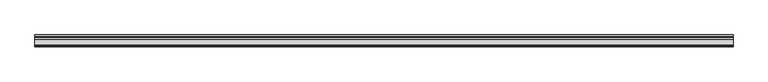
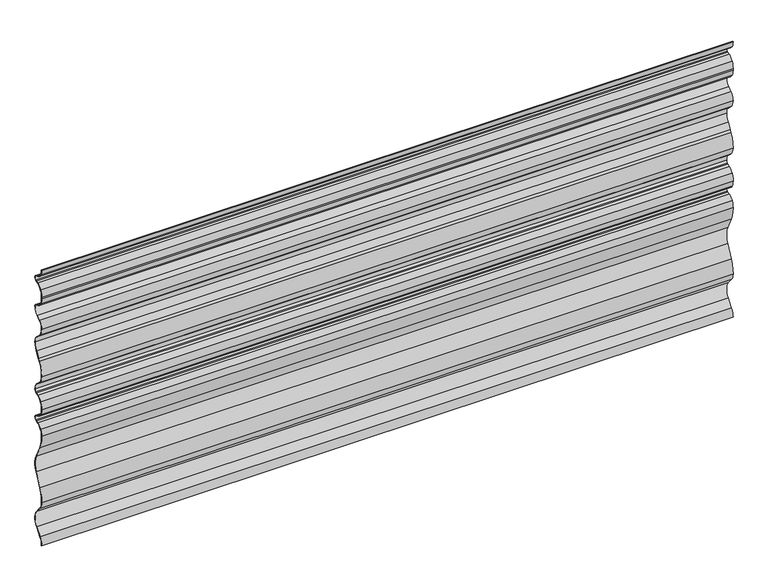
"""IFC4 building model written with IfcOpenShell, lengths in millimetres: plate geometry, Ritmica Horizontal 928 : Ritmica Horizontal 928."""

from ifc_helpers import new_model, si_unit, frame, origin, place, context, project, spatial, polyline, circle_curve, source, transform, mapped, element, save
from ifc_brep_helpers import plane_surface, cylinder_surface, revolved_surface, advanced_brep


def plate_bf433b23(model_context):
    return source(origin(), model_context, "Body", "AdvancedBrep", [
        advanced_brep(
        [(-1100.1688045, 6.5092615, 908.0620129), (-1100.1688045, 21.2621067, 895.6153968), (-1100.1688045, 28.45755, 892.7364297), (-1100.1688045, 31.9226364, 891.0770661), (-1100.1688045, 31.9284533, 875.0954695), (-1100.1688045, 28.4645758, 873.4335839), (-1100.1688045, 21.2712303, 870.5493796), (-1100.1688045, 6.5274495, 858.0920274), (-1100.1688045, 0.7421798, 836.9983174), (-1100.1688045, 0.7421798, 831.6596456), (-1100.1688045, 6.5447465, 810.5701527), (-1100.1688045, 21.2975918, 798.1235366), (-1100.1688045, 28.493035, 795.2445695), (-1100.1688045, 31.9581214, 793.5852059), (-1100.1688045, 36.9921573, 785.5962388), (-1100.1688045, 24.9656186, 760.6206134), (-1100.1688045, 12.9828956, 751.0704574), (-1100.1688045, 1.0048783, 728.5919745), (-1100.1688045, 13.0090533, 701.127971), (-1100.1688045, 24.9992939, 690.0241978), (-1100.1688045, 37.0440106, 665.0573339), (-1100.1688045, 28.6299997, 638.3240963), (-1100.1688045, 17.4991449, 620.9910926), (-1100.1688045, 13.1043036, 613.5575548), (-1100.1688045, 0.921776, 569.3793833), (-1100.1688045, 12.9259511, 541.9153798), (-1100.1688045, 24.9161915, 530.8116067), (-1100.1688045, 36.9609087, 505.8415328), (-1100.1688045, 31.9326896, 497.8521133), (-1100.1688045, 28.4688119, 496.1902275), (-1100.1688045, 21.2754341, 493.3060102), (-1100.1688045, 6.5316868, 480.8486726), (-1100.1688045, 0.8337564, 457.0856569), (-1100.1688045, 6.3430179, 437.5469103), (-1100.1688045, 21.0958632, 425.1002943), (-1100.1688045, 28.2913064, 422.2213272), (-1100.1688045, 31.7563928, 420.5619636), (-1100.1688045, 31.7622098, 404.580367), (-1100.1688045, 28.2983323, 402.9184814), (-1100.1688045, 21.1049867, 400.034277), (-1100.1688045, 6.361206, 387.5769248), (-1100.1688045, 0.8661693, 368.0341733), (-1100.1688045, 10.0476711, 324.2892209), (-1100.1688045, 30.4443377, 283.7581494), (-1100.1688045, 30.4639577, 229.8542794), (-1100.1688045, 10.0968014, 189.3083707), (-1100.1688045, 0.9471466, 145.5567461), (-1100.1688045, 9.5590077, 121.7925982), (-1100.1688045, 28.254799, 99.3683726), (-1100.1688045, 28.274038, 46.5109184), (-1100.1688045, 9.5945757, 23.7707747), (-1100.1688045, 1.0000163, 0.0), (-1100.1688045, 1.63e-05, 0.0), (-1100.1688045, 8.826039, 24.4105804), (-1100.1688045, 27.4885473, 47.1303588), (-1100.1688045, 27.4697594, 98.7483605), (-1100.1688045, 8.790937, 121.1522332), (-1100.1688045, -0.0528427, 145.5386154), (-1100.1688045, 9.1993025, 189.7494732), (-1100.1688045, 29.5703625, 230.3031531), (-1100.1688045, 29.5510695, 283.3086253), (-1100.1688045, 9.1504935, 323.8474651), (-1100.1688045, -0.133833, 368.0515751), (-1100.1688045, 5.5079347, 388.0983921), (-1100.1688045, 20.7330524, 400.9625361), (-1100.1688045, 27.895533, 403.834365), (-1100.1688045, 31.3296428, 405.4819688), (-1100.1688045, 31.3244823, 419.6600471), (-1100.1688045, 27.889174, 421.3051505), (-1100.1688045, 20.7246046, 424.1717647), (-1100.1688045, 5.4901265, 437.024822), (-1100.1688045, -0.1662181, 457.0529178), (-1100.1688045, 5.6750593, 481.3646468), (-1100.1688045, 20.9034647, 494.2342551), (-1100.1688045, 28.0660127, 497.1061111), (-1100.1688045, 31.5001226, 498.7537151), (-1100.1688045, 35.9609087, 505.841531), (-1100.1688045, 24.2645169, 530.052163), (-1100.1688045, 12.2464871, 541.1816709), (-1100.1688045, -0.0782183, 569.3680226), (-1100.1688045, 12.2502128, 614.0778463), (-1100.1688045, 16.6477304, 621.5159109), (-1100.1688045, 27.7982686, 638.8795656), (-1100.1688045, 36.04401, 665.0587755), (-1100.1688045, 24.3475224, 689.2648438), (-1100.1688045, 12.3295893, 700.3942621), (-1100.1688045, 0.0048783, 728.5916105), (-1100.1688045, 12.391292, 751.8777021), (-1100.1688045, 24.342358, 761.4026277), (-1100.1688045, 35.9921573, 785.5958749), (-1100.1688045, 31.5262109, 792.6832895), (-1100.1688045, 28.0909026, 794.3283929), (-1100.1688045, 20.9248539, 797.1955989), (-1100.1688045, 5.6893168, 810.0521734), (-1100.1688045, -0.2558769, 831.6592816), (-1100.1688045, -0.2578202, 836.9981365), (-1100.1688045, 5.6708241, 858.6080051), (-1100.1688045, 20.8992959, 871.4776387), (-1100.1688045, 28.0617766, 874.3494676), (-1100.1688045, 31.4958863, 875.9970713), (-1100.1688045, 31.4907258, 890.1751497), (-1100.1688045, 28.0554176, 891.8202531), (-1100.1688045, 20.8908482, 894.6868673), (-1100.1688045, 5.6563701, 907.5399245), (-1100.1688045, 0.0, 927.600395), (-1100.1688045, 1.0000001, 927.600395), (1100.1688045, 6.5092615, 908.0620129), (1100.1688045, 1.0000001, 927.600395), (1100.1688045, 0.0, 927.600395), (1100.1688045, 5.6563701, 907.5399245), (1100.1688045, 20.8908482, 894.6868673), (1100.1688045, 28.0554176, 891.8202531), (1100.1688045, 31.4907258, 890.1751497), (1100.1688045, 31.4958863, 875.9970713), (1100.1688045, 28.0617766, 874.3494676), (1100.1688045, 20.8992959, 871.4776387), (1100.1688045, 5.6708241, 858.6080051), (1100.1688045, -0.2578202, 836.9981365), (1100.1688045, -0.2578202, 831.6596456), (1100.1688045, 5.6893168, 810.0521734), (1100.1688045, 20.9248539, 797.1955989), (1100.1688045, 28.0909026, 794.3283929), (1100.1688045, 31.5262109, 792.6832895), (1100.1688045, 35.9921573, 785.5958749), (1100.1688045, 24.342358, 761.4026277), (1100.1688045, 12.391292, 751.8777021), (1100.1688045, 0.0048783, 728.5916105), (1100.1688045, 12.3295893, 700.3942621), (1100.1688045, 24.3475224, 689.2648438), (1100.1688045, 36.04401, 665.0587755), (1100.1688045, 27.7982686, 638.8795656), (1100.1688045, 16.6477304, 621.5159109), (1100.1688045, 12.2502128, 614.0778463), (1100.1688045, -0.0782183, 569.3680226), (1100.1688045, 12.2464871, 541.1816709), (1100.1688045, 24.2645169, 530.052163), (1100.1688045, 35.9609087, 505.841531), (1100.1688045, 31.5001226, 498.7537151), (1100.1688045, 28.0660127, 497.1061111), (1100.1688045, 20.9034647, 494.2342551), (1100.1688045, 5.6750593, 481.3646468), (1100.1688045, -0.1662181, 457.0529178), (1100.1688045, 5.4901265, 437.024822), (1100.1688045, 20.7246046, 424.1717647), (1100.1688045, 27.889174, 421.3051505), (1100.1688045, 31.3244823, 419.6600471), (1100.1688045, 31.3296428, 405.4819688), (1100.1688045, 27.895533, 403.834365), (1100.1688045, 20.7330524, 400.9625361), (1100.1688045, 5.5079347, 388.0983921), (1100.1688045, -0.133833, 368.0515751), (1100.1688045, 9.1504935, 323.8474651), (1100.1688045, 29.5510695, 283.3086253), (1100.1688045, 29.5703625, 230.3031531), (1100.1688045, 9.1993025, 189.7494732), (1100.1688045, -0.0528427, 145.5386154), (1100.1688045, 8.790937, 121.1522332), (1100.1688045, 27.4697594, 98.7483605), (1100.1688045, 27.4885473, 47.1303588), (1100.1688045, 8.826039, 24.4105804), (1100.1688045, 1.63e-05, 0.0), (1100.1688045, 1.0000163, 0.0), (1100.1688045, 9.5945757, 23.7707747), (1100.1688045, 28.274038, 46.5109184), (1100.1688045, 28.254799, 99.3683726), (1100.1688045, 9.5590077, 121.7925982), (1100.1688045, 0.9471466, 145.5567461), (1100.1688045, 10.0968014, 189.3083707), (1100.1688045, 30.4639577, 229.8542794), (1100.1688045, 30.4443377, 283.7581494), (1100.1688045, 10.0476711, 324.2892209), (1100.1688045, 0.8661693, 368.0341733), (1100.1688045, 6.361206, 387.5769248), (1100.1688045, 21.1049867, 400.034277), (1100.1688045, 28.2983323, 402.9184814), (1100.1688045, 31.7622098, 404.580367), (1100.1688045, 31.7563928, 420.5619636), (1100.1688045, 28.2913064, 422.2213272), (1100.1688045, 21.0958632, 425.1002943), (1100.1688045, 6.3430179, 437.5469103), (1100.1688045, 0.8337564, 457.0856569), (1100.1688045, 6.5316868, 480.8486726), (1100.1688045, 21.2754341, 493.3060102), (1100.1688045, 28.4688119, 496.1902275), (1100.1688045, 31.9326896, 497.8521133), (1100.1688045, 36.9609087, 505.8415328), (1100.1688045, 24.9161915, 530.8116067), (1100.1688045, 12.9259511, 541.9153798), (1100.1688045, 0.921776, 569.3793833), (1100.1688045, 13.1043036, 613.5575548), (1100.1688045, 17.4991449, 620.9910926), (1100.1688045, 28.6299997, 638.3240963), (1100.1688045, 37.0440106, 665.0573339), (1100.1688045, 24.9992939, 690.0241978), (1100.1688045, 13.0090533, 701.127971), (1100.1688045, 1.0048783, 728.5919745), (1100.1688045, 12.9828956, 751.0704574), (1100.1688045, 24.9656186, 760.6206134), (1100.1688045, 36.9921573, 785.5962388), (1100.1688045, 31.9581214, 793.5852059), (1100.1688045, 28.493035, 795.2445695), (1100.1688045, 21.2975918, 798.1235366), (1100.1688045, 6.5447465, 810.5701527), (1100.1688045, 0.744123, 831.6596456), (1100.1688045, 0.7421798, 836.9983174), (1100.1688045, 6.5274495, 858.0920274), (1100.1688045, 21.2712303, 870.5493796), (1100.1688045, 28.4645758, 873.4335839), (1100.1688045, 31.9284533, 875.0954695), (1100.1688045, 31.9226364, 891.0770661), (1100.1688045, 28.45755, 892.7364297), (1100.1688045, 21.2621067, 895.6153968)],
        [
            (0, 1, circle_curve(frame((-1100.1688045, 32.6219637, 924.0466233), z_axis=(1.0, 0.0, 0.0), x_axis=(0.0, 0.0, 1.0)), 30.6166783)),
            (1, 2),
            (2, 3),
            (3, 4, circle_curve(frame((-1100.1688045, 28.0953282, 883.0848737), z_axis=(-1.0, 0.0, 0.0), x_axis=(0.0, 0.0, 1.0)), 8.8613445)),
            (4, 5),
            (5, 6),
            (6, 7, circle_curve(frame((-1100.1688045, 32.651781, 842.1264302), z_axis=(1.0, 0.0, 0.0), x_axis=(0.0, 0.0, 1.0)), 30.6166783)),
            (7, 8, circle_curve(frame((-1100.1688045, 42.034972, 837.0133472), z_axis=(1.0, 0.0, 0.0), x_axis=(0.0, 0.0, 1.0)), 41.2927949)),
            (8, 9),
            (9, 10, circle_curve(frame((-1100.1688045, 42.0369151, 831.6746753), z_axis=(1.0, 0.0, 0.0), x_axis=(0.0, 0.0, 1.0)), 41.2927949)),
            (10, 11, circle_curve(frame((-1100.1688045, 32.8606059, 826.7955631), z_axis=(1.0, 0.0, 0.0), x_axis=(0.0, 0.0, 1.0)), 30.9158276)),
            (11, 12),
            (12, 13),
            (13, 14, circle_curve(frame((-1100.1688045, 28.1308133, 785.5930135), z_axis=(-1.0, 0.0, 0.0), x_axis=(0.0, 0.0, 1.0)), 8.8613445)),
            (14, 15, circle_curve(frame((-1100.1688045, 5.0694602, 785.5846196), z_axis=(-1.0, 0.0, 0.0), x_axis=(0.0, 0.0, 1.0)), 31.9226992)),
            (15, 16),
            (16, 17, circle_curve(frame((-1100.1688045, 28.0674647, 728.6018247), z_axis=(1.0, 0.0, 0.0), x_axis=(0.0, 0.0, 1.0)), 27.0625882)),
            (17, 18, circle_curve(frame((-1100.1688045, 38.4552002, 728.6056057), z_axis=(1.0, 0.0, 0.0), x_axis=(0.0, 0.0, 1.0)), 37.4503244)),
            (18, 19),
            (19, 20, circle_curve(frame((-1100.1688045, 5.1213136, 665.0457146), z_axis=(-1.0, 0.0, 0.0), x_axis=(0.0, 0.0, 1.0)), 31.9226992)),
            (20, 21, circle_curve(frame((-1100.1688045, -10.1198118, 665.2109304), z_axis=(-1.0, 0.0, 0.0), x_axis=(0.0, 0.0, 1.0)), 47.1640725)),
            (21, 22),
            (22, 23),
            (23, 24, circle_curve(frame((-1100.1688045, 80.6713796, 571.1565204), z_axis=(1.0, 0.0, 0.0), x_axis=(0.0, 0.0, 1.0)), 79.769402)),
            (24, 25, circle_curve(frame((-1100.1688045, 38.372098, 569.3930144), z_axis=(1.0, 0.0, 0.0), x_axis=(0.0, 0.0, 1.0)), 37.4503244)),
            (25, 26),
            (26, 27, circle_curve(frame((-1100.1688045, 5.0555271, 505.8414768), z_axis=(-1.0, 0.0, 0.0), x_axis=(0.0, 0.0, 1.0)), 31.9053816)),
            (27, 28, circle_curve(frame((-1100.1688045, 28.0995643, 505.8415173), z_axis=(-1.0, 0.0, 0.0), x_axis=(0.0, 0.0, 1.0)), 8.8613444)),
            (28, 29),
            (29, 30),
            (30, 31, circle_curve(frame((-1100.1688045, 32.6560172, 464.8830737), z_axis=(1.0, 0.0, 0.0), x_axis=(0.0, 0.0, 1.0)), 30.6166783)),
            (31, 32, circle_curve(frame((-1100.1688045, 42.0392082, 459.7699907), z_axis=(1.0, 0.0, 0.0), x_axis=(0.0, 0.0, 1.0)), 41.2927948)),
            (32, 33, circle_curve(frame((-1100.1688045, 38.2840783, 457.0992876), z_axis=(1.0, 0.0, 0.0), x_axis=(0.0, 0.0, 1.0)), 37.4503244)),
            (33, 34, circle_curve(frame((-1100.1688045, 32.4557202, 453.5315208), z_axis=(1.0, 0.0, 0.0), x_axis=(0.0, 0.0, 1.0)), 30.6166783)),
            (34, 35),
            (35, 36),
            (36, 37, circle_curve(frame((-1100.1688045, 27.9290847, 412.5697711), z_axis=(-1.0, 0.0, 0.0), x_axis=(0.0, 0.0, 1.0)), 8.8613445)),
            (37, 38),
            (38, 39),
            (39, 40, circle_curve(frame((-1100.1688045, 32.4855375, 371.6113276), z_axis=(1.0, 0.0, 0.0), x_axis=(0.0, 0.0, 1.0)), 30.6166783)),
            (40, 41, circle_curve(frame((-1100.1688045, 38.3164913, 368.0478045), z_axis=(1.0, 0.0, 0.0), x_axis=(0.0, 0.0, 1.0)), 37.4503244)),
            (41, 42, circle_curve(frame((-1100.1688045, 94.1023268, 364.7672254), z_axis=(1.0, 0.0, 0.0), x_axis=(0.0, 0.0, 1.0)), 93.293376)),
            (42, 43),
            (43, 44, circle_curve(frame((-1100.1688045, -23.1517542, 256.7867029), z_axis=(-1.0, 0.0, 0.0), x_axis=(0.0, 0.0, 1.0)), 60.0)),
            (44, 45),
            (45, 46, circle_curve(frame((-1100.1688045, 94.1809012, 148.8915653), z_axis=(1.0, 0.0, 0.0), x_axis=(0.0, 0.0, 1.0)), 93.293376)),
            (46, 47, circle_curve(frame((-1100.1688045, 38.0785645, 145.5702612), z_axis=(1.0, 0.0, 0.0), x_axis=(0.0, 0.0, 1.0)), 37.1314203)),
            (47, 48),
            (48, 49, circle_curve(frame((-1100.1688045, -7.0897542, 72.9267773), z_axis=(-1.0, 0.0, 0.0), x_axis=(0.0, 0.0, 1.0)), 44.1406321)),
            (49, 50),
            (50, 51, circle_curve(frame((-1100.1688045, 38.131434, 0.0138791), z_axis=(1.0, 0.0, 0.0), x_axis=(0.0, 0.0, 1.0)), 37.1314203)),
            (51, 52),
            (52, 53, circle_curve(frame((-1100.1688045, 38.131434, 0.0138791), z_axis=(-1.0, 0.0, 0.0), x_axis=(0.0, 0.0, 1.0)), 38.1314203)),
            (53, 54),
            (54, 55, circle_curve(frame((-1100.1688045, -7.0897542, 72.9267773), z_axis=(1.0, 0.0, 0.0), x_axis=(0.0, 0.0, 1.0)), 43.1406321)),
            (55, 56),
            (56, 57, circle_curve(frame((-1100.1688045, 38.0785645, 145.5702612), z_axis=(-1.0, 0.0, 0.0), x_axis=(0.0, 0.0, 1.0)), 38.1314203)),
            (57, 58, circle_curve(frame((-1100.1688045, 94.1809012, 148.8915653), z_axis=(-1.0, 0.0, 0.0), x_axis=(0.0, 0.0, 1.0)), 94.293376)),
            (58, 59),
            (59, 60, circle_curve(frame((-1100.1688045, -23.1517542, 256.7867029), z_axis=(1.0, 0.0, 0.0), x_axis=(0.0, 0.0, 1.0)), 59.0)),
            (60, 61),
            (61, 62, circle_curve(frame((-1100.1688045, 94.1023268, 364.7672254), z_axis=(-1.0, 0.0, 0.0), x_axis=(0.0, 0.0, 1.0)), 94.293376)),
            (62, 63, circle_curve(frame((-1100.1688045, 38.3164913, 368.0478045), z_axis=(-1.0, 0.0, 0.0), x_axis=(0.0, 0.0, 1.0)), 38.4503244)),
            (63, 64, circle_curve(frame((-1100.1688045, 32.4855375, 371.6113276), z_axis=(-1.0, 0.0, 0.0), x_axis=(0.0, 0.0, 1.0)), 31.6166783)),
            (64, 65),
            (65, 66),
            (66, 67, circle_curve(frame((-1100.1688045, 27.9290847, 412.5697711), z_axis=(1.0, 0.0, 0.0), x_axis=(0.0, 0.0, 1.0)), 7.8613445)),
            (67, 68),
            (68, 69),
            (69, 70, circle_curve(frame((-1100.1688045, 32.4557202, 453.5315208), z_axis=(-1.0, 0.0, 0.0), x_axis=(0.0, 0.0, 1.0)), 31.6166783)),
            (70, 71, circle_curve(frame((-1100.1688045, 38.2840783, 457.0992876), z_axis=(-1.0, 0.0, 0.0), x_axis=(0.0, 0.0, 1.0)), 38.4503244)),
            (71, 72, circle_curve(frame((-1100.1688045, 42.0392082, 459.7699907), z_axis=(-1.0, 0.0, 0.0), x_axis=(0.0, 0.0, 1.0)), 42.2927948)),
            (72, 73, circle_curve(frame((-1100.1688045, 32.6560172, 464.8830737), z_axis=(-1.0, 0.0, 0.0), x_axis=(0.0, 0.0, 1.0)), 31.6166782)),
            (73, 74),
            (74, 75),
            (75, 76, circle_curve(frame((-1100.1688045, 28.0995643, 505.8415173), z_axis=(1.0, 0.0, 0.0), x_axis=(0.0, 0.0, 1.0)), 7.8613444)),
            (76, 77, circle_curve(frame((-1100.1688045, 5.0555271, 505.8414768), z_axis=(1.0, 0.0, 0.0), x_axis=(0.0, 0.0, 1.0)), 30.9053816)),
            (77, 78),
            (78, 79, circle_curve(frame((-1100.1688045, 38.372098, 569.3930144), z_axis=(-1.0, 0.0, 0.0), x_axis=(0.0, 0.0, 1.0)), 38.4503244)),
            (79, 80, circle_curve(frame((-1100.1688045, 80.6713796, 571.1565204), z_axis=(-1.0, 0.0, 0.0), x_axis=(0.0, 0.0, 1.0)), 80.769402)),
            (80, 81),
            (81, 82),
            (82, 83, circle_curve(frame((-1100.1688045, -10.1198118, 665.2109304), z_axis=(1.0, 0.0, 0.0), x_axis=(0.0, 0.0, 1.0)), 46.1640725)),
            (83, 84, circle_curve(frame((-1100.1688045, 5.1213136, 665.0457146), z_axis=(1.0, 0.0, 0.0), x_axis=(0.0, 0.0, 1.0)), 30.9226992)),
            (84, 85),
            (85, 86, circle_curve(frame((-1100.1688045, 38.4552002, 728.6056057), z_axis=(-1.0, 0.0, 0.0), x_axis=(0.0, 0.0, 1.0)), 38.4503244)),
            (86, 87, circle_curve(frame((-1100.1688045, 28.0674647, 728.6018247), z_axis=(-1.0, 0.0, 0.0), x_axis=(0.0, 0.0, 1.0)), 28.0625882)),
            (87, 88),
            (88, 89, circle_curve(frame((-1100.1688045, 5.0694602, 785.5846196), z_axis=(1.0, 0.0, 0.0), x_axis=(0.0, 0.0, 1.0)), 30.9226992)),
            (89, 90, circle_curve(frame((-1100.1688045, 28.1308133, 785.5930135), z_axis=(1.0, 0.0, 0.0), x_axis=(0.0, 0.0, 1.0)), 7.8613445)),
            (90, 91),
            (91, 92),
            (92, 93, circle_curve(frame((-1100.1688045, 32.8606059, 826.7955631), z_axis=(-1.0, 0.0, 0.0), x_axis=(0.0, 0.0, 1.0)), 31.9158276)),
            (93, 94, circle_curve(frame((-1100.1688045, 42.0369151, 831.6746753), z_axis=(-1.0, 0.0, 0.0), x_axis=(0.0, 0.0, 1.0)), 42.2927949)),
            (94, 95),
            (95, 96, circle_curve(frame((-1100.1688045, 42.034972, 837.0133472), z_axis=(-1.0, 0.0, 0.0), x_axis=(0.0, 0.0, 1.0)), 42.2927949)),
            (96, 97, circle_curve(frame((-1100.1688045, 32.651781, 842.1264302), z_axis=(-1.0, 0.0, 0.0), x_axis=(0.0, 0.0, 1.0)), 31.6166783)),
            (97, 98),
            (98, 99),
            (99, 100, circle_curve(frame((-1100.1688045, 28.0953282, 883.0848737), z_axis=(1.0, 0.0, 0.0), x_axis=(0.0, 0.0, 1.0)), 7.8613445)),
            (100, 101),
            (101, 102),
            (102, 103, circle_curve(frame((-1100.1688045, 32.6219637, 924.0466233), z_axis=(-1.0, 0.0, 0.0), x_axis=(0.0, 0.0, 1.0)), 31.6166783)),
            (103, 104, circle_curve(frame((-1100.1688045, 38.4503219, 927.6143902), z_axis=(-1.0, 0.0, 0.0), x_axis=(0.0, 0.0, 1.0)), 38.4503244)),
            (104, 105),
            (105, 0, circle_curve(frame((-1100.1688045, 38.4503219, 927.6143902), z_axis=(1.0, 0.0, 0.0), x_axis=(0.0, 0.0, 1.0)), 37.4503244)),
            (106, 107, circle_curve(frame((1100.1688045, 38.4503219, 927.6143902), z_axis=(-1.0, 0.0, 0.0), x_axis=(0.0, 0.0, 1.0)), 37.4503244)),
            (107, 108),
            (108, 109, circle_curve(frame((1100.1688045, 38.4503219, 927.6143902), z_axis=(1.0, 0.0, 0.0), x_axis=(0.0, 0.0, 1.0)), 38.4503244)),
            (109, 110, circle_curve(frame((1100.1688045, 32.6219637, 924.0466233), z_axis=(1.0, 0.0, 0.0), x_axis=(0.0, 0.0, 1.0)), 31.6166783)),
            (110, 111),
            (111, 112),
            (112, 113, circle_curve(frame((1100.1688045, 28.0953282, 883.0848737), z_axis=(-1.0, 0.0, 0.0), x_axis=(0.0, 0.0, 1.0)), 7.8613445)),
            (113, 114),
            (114, 115),
            (115, 116, circle_curve(frame((1100.1688045, 32.651781, 842.1264302), z_axis=(1.0, 0.0, 0.0), x_axis=(0.0, 0.0, 1.0)), 31.6166783)),
            (116, 117, circle_curve(frame((1100.1688045, 42.034972, 837.0133472), z_axis=(1.0, 0.0, 0.0), x_axis=(0.0, 0.0, 1.0)), 42.2927949)),
            (117, 118),
            (118, 119, circle_curve(frame((1100.1688045, 42.0369151, 831.6746753), z_axis=(1.0, 0.0, 0.0), x_axis=(0.0, 0.0, 1.0)), 42.2927949)),
            (119, 120, circle_curve(frame((1100.1688045, 32.8606059, 826.7955631), z_axis=(1.0, 0.0, 0.0), x_axis=(0.0, 0.0, 1.0)), 31.9158276)),
            (120, 121),
            (121, 122),
            (122, 123, circle_curve(frame((1100.1688045, 28.1308133, 785.5930135), z_axis=(-1.0, 0.0, 0.0), x_axis=(0.0, 0.0, 1.0)), 7.8613445)),
            (123, 124, circle_curve(frame((1100.1688045, 5.0694602, 785.5846196), z_axis=(-1.0, 0.0, 0.0), x_axis=(0.0, 0.0, 1.0)), 30.9226992)),
            (124, 125),
            (125, 126, circle_curve(frame((1100.1688045, 28.0674647, 728.6018247), z_axis=(1.0, 0.0, 0.0), x_axis=(0.0, 0.0, 1.0)), 28.0625882)),
            (126, 127, circle_curve(frame((1100.1688045, 38.4552002, 728.6056057), z_axis=(1.0, 0.0, 0.0), x_axis=(0.0, 0.0, 1.0)), 38.4503244)),
            (127, 128),
            (128, 129, circle_curve(frame((1100.1688045, 5.1213136, 665.0457146), z_axis=(-1.0, 0.0, 0.0), x_axis=(0.0, 0.0, 1.0)), 30.9226992)),
            (129, 130, circle_curve(frame((1100.1688045, -10.1198118, 665.2109304), z_axis=(-1.0, 0.0, 0.0), x_axis=(0.0, 0.0, 1.0)), 46.1640725)),
            (130, 131),
            (131, 132),
            (132, 133, circle_curve(frame((1100.1688045, 80.6713796, 571.1565204), z_axis=(1.0, 0.0, 0.0), x_axis=(0.0, 0.0, 1.0)), 80.769402)),
            (133, 134, circle_curve(frame((1100.1688045, 38.372098, 569.3930144), z_axis=(1.0, 0.0, 0.0), x_axis=(0.0, 0.0, 1.0)), 38.4503244)),
            (134, 135),
            (135, 136, circle_curve(frame((1100.1688045, 5.0555271, 505.8414768), z_axis=(-1.0, 0.0, 0.0), x_axis=(0.0, 0.0, 1.0)), 30.9053816)),
            (136, 137, circle_curve(frame((1100.1688045, 28.0995643, 505.8415173), z_axis=(-1.0, 0.0, 0.0), x_axis=(0.0, 0.0, 1.0)), 7.8613444)),
            (137, 138),
            (138, 139),
            (139, 140, circle_curve(frame((1100.1688045, 32.6560172, 464.8830737), z_axis=(1.0, 0.0, 0.0), x_axis=(0.0, 0.0, 1.0)), 31.6166782)),
            (140, 141, circle_curve(frame((1100.1688045, 42.0392082, 459.7699907), z_axis=(1.0, 0.0, 0.0), x_axis=(0.0, 0.0, 1.0)), 42.2927948)),
            (141, 142, circle_curve(frame((1100.1688045, 38.2840783, 457.0992876), z_axis=(1.0, 0.0, 0.0), x_axis=(0.0, 0.0, 1.0)), 38.4503244)),
            (142, 143, circle_curve(frame((1100.1688045, 32.4557202, 453.5315208), z_axis=(1.0, 0.0, 0.0), x_axis=(0.0, 0.0, 1.0)), 31.6166783)),
            (143, 144),
            (144, 145),
            (145, 146, circle_curve(frame((1100.1688045, 27.9290847, 412.5697711), z_axis=(-1.0, 0.0, 0.0), x_axis=(0.0, 0.0, 1.0)), 7.8613445)),
            (146, 147),
            (147, 148),
            (148, 149, circle_curve(frame((1100.1688045, 32.4855375, 371.6113276), z_axis=(1.0, 0.0, 0.0), x_axis=(0.0, 0.0, 1.0)), 31.6166783)),
            (149, 150, circle_curve(frame((1100.1688045, 38.3164913, 368.0478045), z_axis=(1.0, 0.0, 0.0), x_axis=(0.0, 0.0, 1.0)), 38.4503244)),
            (150, 151, circle_curve(frame((1100.1688045, 94.1023268, 364.7672254), z_axis=(1.0, 0.0, 0.0), x_axis=(0.0, 0.0, 1.0)), 94.293376)),
            (151, 152),
            (152, 153, circle_curve(frame((1100.1688045, -23.1517542, 256.7867029), z_axis=(-1.0, 0.0, 0.0), x_axis=(0.0, 0.0, 1.0)), 59.0)),
            (153, 154),
            (154, 155, circle_curve(frame((1100.1688045, 94.1809012, 148.8915653), z_axis=(1.0, 0.0, 0.0), x_axis=(0.0, 0.0, 1.0)), 94.293376)),
            (155, 156, circle_curve(frame((1100.1688045, 38.0785645, 145.5702612), z_axis=(1.0, 0.0, 0.0), x_axis=(0.0, 0.0, 1.0)), 38.1314203)),
            (156, 157),
            (157, 158, circle_curve(frame((1100.1688045, -7.0897542, 72.9267773), z_axis=(-1.0, 0.0, 0.0), x_axis=(0.0, 0.0, 1.0)), 43.1406321)),
            (158, 159),
            (159, 160, circle_curve(frame((1100.1688045, 38.131434, 0.0138791), z_axis=(1.0, 0.0, 0.0), x_axis=(0.0, 0.0, 1.0)), 38.1314203)),
            (160, 161),
            (161, 162, circle_curve(frame((1100.1688045, 38.131434, 0.0138791), z_axis=(-1.0, 0.0, 0.0), x_axis=(0.0, 0.0, 1.0)), 37.1314203)),
            (162, 163),
            (163, 164, circle_curve(frame((1100.1688045, -7.0897542, 72.9267773), z_axis=(1.0, 0.0, 0.0), x_axis=(0.0, 0.0, 1.0)), 44.1406321)),
            (164, 165),
            (165, 166, circle_curve(frame((1100.1688045, 38.0785645, 145.5702612), z_axis=(-1.0, 0.0, 0.0), x_axis=(0.0, 0.0, 1.0)), 37.1314203)),
            (166, 167, circle_curve(frame((1100.1688045, 94.1809012, 148.8915653), z_axis=(-1.0, 0.0, 0.0), x_axis=(0.0, 0.0, 1.0)), 93.293376)),
            (167, 168),
            (168, 169, circle_curve(frame((1100.1688045, -23.1517542, 256.7867029), z_axis=(1.0, 0.0, 0.0), x_axis=(0.0, 0.0, 1.0)), 60.0)),
            (169, 170),
            (170, 171, circle_curve(frame((1100.1688045, 94.1023268, 364.7672254), z_axis=(-1.0, 0.0, 0.0), x_axis=(0.0, 0.0, 1.0)), 93.293376)),
            (171, 172, circle_curve(frame((1100.1688045, 38.3164913, 368.0478045), z_axis=(-1.0, 0.0, 0.0), x_axis=(0.0, 0.0, 1.0)), 37.4503244)),
            (172, 173, circle_curve(frame((1100.1688045, 32.4855375, 371.6113276), z_axis=(-1.0, 0.0, 0.0), x_axis=(0.0, 0.0, 1.0)), 30.6166783)),
            (173, 174),
            (174, 175),
            (175, 176, circle_curve(frame((1100.1688045, 27.9290847, 412.5697711), z_axis=(1.0, 0.0, 0.0), x_axis=(0.0, 0.0, 1.0)), 8.8613445)),
            (176, 177),
            (177, 178),
            (178, 179, circle_curve(frame((1100.1688045, 32.4557202, 453.5315208), z_axis=(-1.0, 0.0, 0.0), x_axis=(0.0, 0.0, 1.0)), 30.6166783)),
            (179, 180, circle_curve(frame((1100.1688045, 38.2840783, 457.0992876), z_axis=(-1.0, 0.0, 0.0), x_axis=(0.0, 0.0, 1.0)), 37.4503244)),
            (180, 181, circle_curve(frame((1100.1688045, 42.0392082, 459.7699907), z_axis=(-1.0, 0.0, 0.0), x_axis=(0.0, 0.0, 1.0)), 41.2927948)),
            (181, 182, circle_curve(frame((1100.1688045, 32.6560172, 464.8830737), z_axis=(-1.0, 0.0, 0.0), x_axis=(0.0, 0.0, 1.0)), 30.6166783)),
            (182, 183),
            (183, 184),
            (184, 185, circle_curve(frame((1100.1688045, 28.0995643, 505.8415173), z_axis=(1.0, 0.0, 0.0), x_axis=(0.0, 0.0, 1.0)), 8.8613444)),
            (185, 186, circle_curve(frame((1100.1688045, 5.0555271, 505.8414768), z_axis=(1.0, 0.0, 0.0), x_axis=(0.0, 0.0, 1.0)), 31.9053816)),
            (186, 187),
            (187, 188, circle_curve(frame((1100.1688045, 38.372098, 569.3930144), z_axis=(-1.0, 0.0, 0.0), x_axis=(0.0, 0.0, 1.0)), 37.4503244)),
            (188, 189, circle_curve(frame((1100.1688045, 80.6713796, 571.1565204), z_axis=(-1.0, 0.0, 0.0), x_axis=(0.0, 0.0, 1.0)), 79.769402)),
            (189, 190),
            (190, 191),
            (191, 192, circle_curve(frame((1100.1688045, -10.1198118, 665.2109304), z_axis=(1.0, 0.0, 0.0), x_axis=(0.0, 0.0, 1.0)), 47.1640725)),
            (192, 193, circle_curve(frame((1100.1688045, 5.1213136, 665.0457146), z_axis=(1.0, 0.0, 0.0), x_axis=(0.0, 0.0, 1.0)), 31.9226992)),
            (193, 194),
            (194, 195, circle_curve(frame((1100.1688045, 38.4552002, 728.6056057), z_axis=(-1.0, 0.0, 0.0), x_axis=(0.0, 0.0, 1.0)), 37.4503244)),
            (195, 196, circle_curve(frame((1100.1688045, 28.0674647, 728.6018247), z_axis=(-1.0, 0.0, 0.0), x_axis=(0.0, 0.0, 1.0)), 27.0625882)),
            (196, 197),
            (197, 198, circle_curve(frame((1100.1688045, 5.0694602, 785.5846196), z_axis=(1.0, 0.0, 0.0), x_axis=(0.0, 0.0, 1.0)), 31.9226992)),
            (198, 199, circle_curve(frame((1100.1688045, 28.1308133, 785.5930135), z_axis=(1.0, 0.0, 0.0), x_axis=(0.0, 0.0, 1.0)), 8.8613445)),
            (199, 200),
            (200, 201),
            (201, 202, circle_curve(frame((1100.1688045, 32.8606059, 826.7955631), z_axis=(-1.0, 0.0, 0.0), x_axis=(0.0, 0.0, 1.0)), 30.9158276)),
            (202, 203, circle_curve(frame((1100.1688045, 42.0369151, 831.6746753), z_axis=(-1.0, 0.0, 0.0), x_axis=(0.0, 0.0, 1.0)), 41.2927949)),
            (203, 204),
            (204, 205, circle_curve(frame((1100.1688045, 42.034972, 837.0133472), z_axis=(-1.0, 0.0, 0.0), x_axis=(0.0, 0.0, 1.0)), 41.2927949)),
            (205, 206, circle_curve(frame((1100.1688045, 32.651781, 842.1264302), z_axis=(-1.0, 0.0, 0.0), x_axis=(0.0, 0.0, 1.0)), 30.6166783)),
            (206, 207),
            (207, 208),
            (208, 209, circle_curve(frame((1100.1688045, 28.0953282, 883.0848737), z_axis=(1.0, 0.0, 0.0), x_axis=(0.0, 0.0, 1.0)), 8.8613445)),
            (209, 210),
            (210, 211),
            (211, 106, circle_curve(frame((1100.1688045, 32.6219637, 924.0466233), z_axis=(-1.0, 0.0, 0.0), x_axis=(0.0, 0.0, 1.0)), 30.6166783)),
            (0, 106),
            (211, 1),
            (210, 2),
            (209, 3),
            (208, 4),
            (207, 5),
            (206, 6),
            (205, 7),
            (204, 8),
            (203, 9),
            (202, 10),
            (201, 11),
            (200, 12),
            (199, 13),
            (198, 14),
            (197, 15),
            (196, 16),
            (195, 17),
            (194, 18),
            (193, 19),
            (192, 20),
            (191, 21),
            (190, 22),
            (189, 23),
            (188, 24),
            (187, 25),
            (186, 26),
            (185, 27),
            (184, 28),
            (183, 29),
            (182, 30),
            (181, 31),
            (180, 32),
            (179, 33),
            (178, 34),
            (177, 35),
            (176, 36),
            (175, 37),
            (174, 38),
            (173, 39),
            (172, 40),
            (171, 41),
            (170, 42),
            (169, 43),
            (168, 44),
            (167, 45),
            (166, 46),
            (165, 47),
            (164, 48),
            (163, 49),
            (162, 50),
            (161, 51),
            (160, 52),
            (159, 53),
            (158, 54),
            (157, 55),
            (156, 56),
            (155, 57),
            (154, 58),
            (153, 59),
            (152, 60),
            (151, 61),
            (150, 62),
            (149, 63),
            (148, 64),
            (147, 65),
            (146, 66),
            (145, 67),
            (144, 68),
            (143, 69),
            (142, 70),
            (141, 71),
            (140, 72),
            (139, 73),
            (138, 74),
            (137, 75),
            (136, 76),
            (135, 77),
            (134, 78),
            (133, 79),
            (132, 80),
            (131, 81),
            (130, 82),
            (129, 83),
            (128, 84),
            (127, 85),
            (126, 86),
            (125, 87),
            (124, 88),
            (123, 89),
            (122, 90),
            (121, 91),
            (120, 92),
            (119, 93),
            (118, 94),
            (117, 95),
            (116, 96),
            (115, 97),
            (114, 98),
            (113, 99),
            (112, 100),
            (111, 101),
            (110, 102),
            (109, 103),
            (108, 104),
            (107, 105),
        ],
        [
            plane_surface(frame((-1100.1688045, 32.6219637, 954.6633016), z_axis=(-1.0, 0.0, 0.0), x_axis=(0.0, -1.0, 0.0))),
            plane_surface(frame((1100.1688045, 32.6219637, 954.6633016), z_axis=(1.0, 0.0, 0.0), x_axis=(0.0, 1.0, 0.0))),
            revolved_surface(polyline([(1100.1688045, 32.6219637, 954.6633016), (-1100.1688045, 32.6219637, 954.6633016)]), (1100.1688045, 32.6219637, 924.0466233), (1.0, 0.0, 0.0)),
            plane_surface(frame((-1100.1688045, 21.2621067, 895.6153968), z_axis=(0.0, 0.3714785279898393, 0.9284415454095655), x_axis=(1.0, 0.0, 0.0))),
            plane_surface(frame((-1100.1688045, 28.45755, 892.7364297), z_axis=(0.0, 0.43191054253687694, 0.9019164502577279), x_axis=(1.0, 0.0, 0.0))),
            cylinder_surface(frame((1100.1688045, 28.0953282, 883.0848737), z_axis=(-1.0, 0.0, 0.0), x_axis=(0.0, 0.0, 1.0)), 8.8613445),
            plane_surface(frame((-1100.1688045, 31.9284533, 875.0954695), z_axis=(0.0, 0.43256698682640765, -0.9016017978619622), x_axis=(1.0, 0.0, 0.0))),
            plane_surface(frame((-1100.1688045, 28.4645758, 873.4335839), z_axis=(0.0, 0.3721542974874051, -0.928170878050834), x_axis=(1.0, 0.0, 0.0))),
            revolved_surface(polyline([(1100.1688045, 32.651781, 872.7431085), (-1100.1688045, 32.651781, 872.7431085)]), (1100.1688045, 32.651781, 842.1264302), (1.0, 0.0, 0.0)),
            revolved_surface(polyline([(1100.1688045, 42.034972, 878.3061421), (-1100.1688045, 42.034972, 878.3061421)]), (1100.1688045, 42.034972, 837.0133472), (1.0, 0.0, 0.0)),
            plane_surface(frame((-1100.1688045, 0.7421798, 836.9983174), z_axis=(0.0, 1.0, 0.0), x_axis=(1.0, 0.0, 0.0))),
            revolved_surface(polyline([(1100.1688045, 42.0369151, 872.9674702), (-1100.1688045, 42.0369151, 872.9674702)]), (1100.1688045, 42.0369151, 831.6746753), (1.0, 0.0, 0.0)),
            revolved_surface(polyline([(1100.1688045, 32.8606059, 857.7113907), (-1100.1688045, 32.8606059, 857.7113907)]), (1100.1688045, 32.8606059, 826.7955631), (1.0, 0.0, 0.0)),
            plane_surface(frame((-1100.1688045, 21.2975918, 798.1235366), z_axis=(0.0, 0.3714785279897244, 0.9284415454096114), x_axis=(1.0, 0.0, 0.0))),
            plane_surface(frame((-1100.1688045, 28.493035, 795.2445695), z_axis=(0.0, 0.4319105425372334, 0.9019164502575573), x_axis=(1.0, 0.0, 0.0))),
            cylinder_surface(frame((1100.1688045, 28.1308133, 785.5930135), z_axis=(-1.0, 0.0, 0.0), x_axis=(0.0, 0.0, 1.0)), 8.8613445),
            cylinder_surface(frame((1100.1688045, 5.0694602, 785.5846196), z_axis=(-1.0, 0.0, 0.0), x_axis=(0.0, 0.0, 1.0)), 31.9226992),
            plane_surface(frame((-1100.1688045, 24.9656186, 760.6206134), z_axis=(0.0, 0.6232605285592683, -0.7820142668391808), x_axis=(1.0, 0.0, 0.0))),
            revolved_surface(polyline([(1100.1688045, 28.0674647, 755.6644129), (-1100.1688045, 28.0674647, 755.6644129)]), (1100.1688045, 28.0674647, 728.6018247), (1.0, 0.0, 0.0)),
            revolved_surface(polyline([(1100.1688045, 38.4552002, 766.0559301), (-1100.1688045, 38.4552002, 766.0559301)]), (1100.1688045, 38.4552002, 728.6056057), (1.0, 0.0, 0.0)),
            plane_surface(frame((-1100.1688045, 13.0090533, 701.127971), z_axis=(0.0, 0.6794639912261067, 0.7337088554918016), x_axis=(1.0, 0.0, 0.0))),
            cylinder_surface(frame((1100.1688045, 5.1213136, 665.0457146), z_axis=(-1.0, 0.0, 0.0), x_axis=(0.0, 0.0, 1.0)), 31.9226992),
            cylinder_surface(frame((1100.1688045, -10.1198118, 665.2109304), z_axis=(-1.0, 0.0, 0.0), x_axis=(0.0, 0.0, 1.0)), 47.1640725),
            plane_surface(frame((-1100.1688045, 28.6299997, 638.3240963), z_axis=(0.0, 0.8414387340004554, -0.5403525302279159), x_axis=(1.0, 0.0, 0.0))),
            plane_surface(frame((-1100.1688045, 17.4991449, 620.9910926), z_axis=(0.0, 0.8608100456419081, -0.5089263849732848), x_axis=(1.0, 0.0, 0.0))),
            revolved_surface(polyline([(1100.1688045, 80.6713796, 650.9259224), (-1100.1688045, 80.6713796, 650.9259224)]), (1100.1688045, 80.6713796, 571.1565204), (1.0, 0.0, 0.0)),
            revolved_surface(polyline([(1100.1688045, 38.372098, 606.8433388), (-1100.1688045, 38.372098, 606.8433388)]), (1100.1688045, 38.372098, 569.3930144), (1.0, 0.0, 0.0)),
            plane_surface(frame((-1100.1688045, 12.9259511, 541.9153798), z_axis=(0.0, 0.6794639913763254, 0.7337088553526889), x_axis=(1.0, 0.0, 0.0))),
            cylinder_surface(frame((1100.1688045, 5.0555271, 505.8414768), z_axis=(-1.0, 0.0, 0.0), x_axis=(0.0, 0.0, 1.0)), 31.9053816),
            cylinder_surface(frame((1100.1688045, 28.0995643, 505.8415173), z_axis=(-1.0, 0.0, 0.0), x_axis=(0.0, 0.0, 1.0)), 8.8613444),
            plane_surface(frame((-1100.1688045, 31.9326896, 497.8521133), z_axis=(0.0, 0.43256701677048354, -0.9016017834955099), x_axis=(1.0, 0.0, 0.0))),
            plane_surface(frame((-1100.1688045, 28.4688119, 496.1902275), z_axis=(0.0, 0.37215430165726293, -0.9281708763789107), x_axis=(1.0, 0.0, 0.0))),
            revolved_surface(polyline([(1100.1688045, 32.6560172, 495.499752), (-1100.1688045, 32.6560172, 495.499752)]), (1100.1688045, 32.6560172, 464.8830737), (1.0, 0.0, 0.0)),
            revolved_surface(polyline([(1100.1688045, 42.0392082, 501.0627855), (-1100.1688045, 42.0392082, 501.0627855)]), (1100.1688045, 42.0392082, 459.7699907), (1.0, 0.0, 0.0)),
            revolved_surface(polyline([(1100.1688045, 38.2840783, 494.549612), (-1100.1688045, 38.2840783, 494.549612)]), (1100.1688045, 38.2840783, 457.0992876), (1.0, 0.0, 0.0)),
            revolved_surface(polyline([(1100.1688045, 32.4557202, 484.1481991), (-1100.1688045, 32.4557202, 484.1481991)]), (1100.1688045, 32.4557202, 453.5315208), (1.0, 0.0, 0.0)),
            plane_surface(frame((-1100.1688045, 21.0958632, 425.1002943), z_axis=(0.0, 0.3714785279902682, 0.9284415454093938), x_axis=(1.0, 0.0, 0.0))),
            plane_surface(frame((-1100.1688045, 28.2913064, 422.2213272), z_axis=(0.0, 0.43191054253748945, 0.9019164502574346), x_axis=(1.0, 0.0, 0.0))),
            cylinder_surface(frame((1100.1688045, 27.9290847, 412.5697711), z_axis=(-1.0, 0.0, 0.0), x_axis=(0.0, 0.0, 1.0)), 8.8613445),
            plane_surface(frame((-1100.1688045, 31.7622098, 404.580367), z_axis=(0.0, 0.432566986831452, -0.901601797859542), x_axis=(1.0, 0.0, 0.0))),
            plane_surface(frame((-1100.1688045, 28.2983323, 402.9184814), z_axis=(0.0, 0.3721542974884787, -0.9281708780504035), x_axis=(1.0, 0.0, 0.0))),
            revolved_surface(polyline([(1100.1688045, 32.4855375, 402.22800589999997), (-1100.1688045, 32.4855375, 402.22800589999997)]), (1100.1688045, 32.4855375, 371.6113276), (1.0, 0.0, 0.0)),
            revolved_surface(polyline([(1100.1688045, 38.3164913, 405.4981289), (-1100.1688045, 38.3164913, 405.4981289)]), (1100.1688045, 38.3164913, 368.0478045), (1.0, 0.0, 0.0)),
            revolved_surface(polyline([(1100.1688045, 94.1023268, 458.0606014), (-1100.1688045, 94.1023268, 458.0606014)]), (1100.1688045, 94.1023268, 364.7672254), (1.0, 0.0, 0.0)),
            plane_surface(frame((-1100.1688045, 10.0476711, 324.2892209), z_axis=(0.0, 0.8932681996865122, 0.4495241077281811), x_axis=(1.0, 0.0, 0.0))),
            cylinder_surface(frame((1100.1688045, -23.1517542, 256.7867029), z_axis=(-1.0, 0.0, 0.0), x_axis=(0.0, 0.0, 1.0)), 60.0),
            plane_surface(frame((-1100.1688045, 30.4639577, 229.8542794), z_axis=(0.0, 0.8935951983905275, -0.44887372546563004), x_axis=(1.0, 0.0, 0.0))),
            revolved_surface(polyline([(1100.1688045, 94.1809012, 242.1849413), (-1100.1688045, 94.1809012, 242.1849413)]), (1100.1688045, 94.1809012, 148.8915653), (1.0, 0.0, 0.0)),
            revolved_surface(polyline([(1100.1688045, 38.0785645, 182.7016815), (-1100.1688045, 38.0785645, 182.7016815)]), (1100.1688045, 38.0785645, 145.5702612), (1.0, 0.0, 0.0)),
            plane_surface(frame((-1100.1688045, 9.5590077, 121.7925982), z_axis=(0.0, 0.768070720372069, 0.640365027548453), x_axis=(1.0, 0.0, 0.0))),
            cylinder_surface(frame((1100.1688045, -7.0897542, 72.9267773), z_axis=(-1.0, 0.0, 0.0), x_axis=(0.0, 0.0, 1.0)), 44.1406321),
            plane_surface(frame((-1100.1688045, 28.274038, 46.5109184), z_axis=(0.0, 0.7727252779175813, -0.6347406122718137), x_axis=(1.0, 0.0, 0.0))),
            revolved_surface(polyline([(1100.1688045, 38.131434, 37.1452994), (-1100.1688045, 38.131434, 37.1452994)]), (1100.1688045, 38.131434, 0.0138791), (1.0, 0.0, 0.0)),
            plane_surface(frame((-1100.1688045, 1.0000163, 0.0), z_axis=(0.0, 0.0, -1.0), x_axis=(1.0, 0.0, 0.0))),
            cylinder_surface(frame((1100.1688045, 38.131434, 0.0138791), z_axis=(-1.0, 0.0, 0.0), x_axis=(0.0, 0.0, 1.0)), 38.1314203),
            plane_surface(frame((-1100.1688045, 8.826039, 24.4105804), z_axis=(0.0, -0.772729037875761, 0.6347360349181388), x_axis=(1.0, 0.0, 0.0))),
            revolved_surface(polyline([(1100.1688045, -7.0897542, 116.0674094), (-1100.1688045, -7.0897542, 116.0674094)]), (1100.1688045, -7.0897542, 72.9267773), (1.0, 0.0, 0.0)),
            plane_surface(frame((-1100.1688045, 27.4697594, 98.7483605), z_axis=(0.0, -0.7680707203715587, -0.6403650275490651), x_axis=(1.0, 0.0, 0.0))),
            cylinder_surface(frame((1100.1688045, 38.0785645, 145.5702612), z_axis=(-1.0, 0.0, 0.0), x_axis=(0.0, 0.0, 1.0)), 38.1314203),
            cylinder_surface(frame((1100.1688045, 94.1809012, 148.8915653), z_axis=(-1.0, 0.0, 0.0), x_axis=(0.0, 0.0, 1.0)), 94.293376),
            plane_surface(frame((-1100.1688045, 9.1993025, 189.7494732), z_axis=(0.0, -0.893595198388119, 0.448873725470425), x_axis=(1.0, 0.0, 0.0))),
            revolved_surface(polyline([(1100.1688045, -23.1517542, 315.7867029), (-1100.1688045, -23.1517542, 315.7867029)]), (1100.1688045, -23.1517542, 256.7867029), (1.0, 0.0, 0.0)),
            plane_surface(frame((-1100.1688045, 29.5510695, 283.3086253), z_axis=(0.0, -0.8932681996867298, -0.4495241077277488), x_axis=(1.0, 0.0, 0.0))),
            cylinder_surface(frame((1100.1688045, 94.1023268, 364.7672254), z_axis=(-1.0, 0.0, 0.0), x_axis=(0.0, 0.0, 1.0)), 94.293376),
            cylinder_surface(frame((1100.1688045, 38.3164913, 368.0478045), z_axis=(-1.0, 0.0, 0.0), x_axis=(0.0, 0.0, 1.0)), 38.4503244),
            cylinder_surface(frame((1100.1688045, 32.4855375, 371.6113276), z_axis=(-1.0, 0.0, 0.0), x_axis=(0.0, 0.0, 1.0)), 31.6166783),
            plane_surface(frame((-1100.1688045, 20.7330524, 400.9625361), z_axis=(0.0, -0.3721542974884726, 0.9281708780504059), x_axis=(1.0, 0.0, 0.0))),
            plane_surface(frame((-1100.1688045, 27.895533, 403.834365), z_axis=(0.0, -0.43256698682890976, 0.9016017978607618), x_axis=(1.0, 0.0, 0.0))),
            revolved_surface(polyline([(1100.1688045, 27.9290847, 420.4311156), (-1100.1688045, 27.9290847, 420.4311156)]), (1100.1688045, 27.9290847, 412.5697711), (1.0, 0.0, 0.0)),
            plane_surface(frame((-1100.1688045, 31.3244823, 419.6600471), z_axis=(0.0, -0.43191054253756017, -0.9019164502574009), x_axis=(1.0, 0.0, 0.0))),
            plane_surface(frame((-1100.1688045, 27.889174, 421.3051505), z_axis=(0.0, -0.3714785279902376, -0.9284415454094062), x_axis=(1.0, 0.0, 0.0))),
            cylinder_surface(frame((1100.1688045, 32.4557202, 453.5315208), z_axis=(-1.0, 0.0, 0.0), x_axis=(0.0, 0.0, 1.0)), 31.6166783),
            cylinder_surface(frame((1100.1688045, 38.2840783, 457.0992876), z_axis=(-1.0, 0.0, 0.0), x_axis=(0.0, 0.0, 1.0)), 38.4503244),
            cylinder_surface(frame((1100.1688045, 42.0392082, 459.7699907), z_axis=(-1.0, 0.0, 0.0), x_axis=(0.0, 0.0, 1.0)), 42.2927948),
            cylinder_surface(frame((1100.1688045, 32.6560172, 464.8830737), z_axis=(-1.0, 0.0, 0.0), x_axis=(0.0, 0.0, 1.0)), 31.6166782),
            plane_surface(frame((-1100.1688045, 20.9034647, 494.2342551), z_axis=(0.0, -0.3721543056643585, 0.9281708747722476), x_axis=(1.0, 0.0, 0.0))),
            plane_surface(frame((-1100.1688045, 28.0660127, 497.1061111), z_axis=(0.0, -0.43256701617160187, 0.9016017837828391), x_axis=(1.0, 0.0, 0.0))),
            revolved_surface(polyline([(1100.1688045, 28.0995643, 513.7028617), (-1100.1688045, 28.0995643, 513.7028617)]), (1100.1688045, 28.0995643, 505.8415173), (1.0, 0.0, 0.0)),
            revolved_surface(polyline([(1100.1688045, 5.0555271, 536.7468584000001), (-1100.1688045, 5.0555271, 536.7468584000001)]), (1100.1688045, 5.0555271, 505.8414768), (1.0, 0.0, 0.0)),
            plane_surface(frame((-1100.1688045, 24.2645169, 530.052163), z_axis=(0.0, -0.6794639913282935, -0.7337088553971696), x_axis=(1.0, 0.0, 0.0))),
            cylinder_surface(frame((1100.1688045, 38.372098, 569.3930144), z_axis=(-1.0, 0.0, 0.0), x_axis=(0.0, 0.0, 1.0)), 38.4503244),
            cylinder_surface(frame((1100.1688045, 80.6713796, 571.1565204), z_axis=(-1.0, 0.0, 0.0), x_axis=(0.0, 0.0, 1.0)), 80.769402),
            plane_surface(frame((-1100.1688045, 12.2502128, 614.0778463), z_axis=(0.0, -0.8608100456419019, 0.5089263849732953), x_axis=(1.0, 0.0, 0.0))),
            plane_surface(frame((-1100.1688045, 16.6477304, 621.5159109), z_axis=(0.0, -0.8414387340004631, 0.5403525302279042), x_axis=(1.0, 0.0, 0.0))),
            revolved_surface(polyline([(1100.1688045, -10.1198118, 711.3750029), (-1100.1688045, -10.1198118, 711.3750029)]), (1100.1688045, -10.1198118, 665.2109304), (1.0, 0.0, 0.0)),
            revolved_surface(polyline([(1100.1688045, 5.1213136, 695.9684138), (-1100.1688045, 5.1213136, 695.9684138)]), (1100.1688045, 5.1213136, 665.0457146), (1.0, 0.0, 0.0)),
            plane_surface(frame((-1100.1688045, 24.3475224, 689.2648438), z_axis=(0.0, -0.6794639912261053, -0.7337088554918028), x_axis=(1.0, 0.0, 0.0))),
            cylinder_surface(frame((1100.1688045, 38.4552002, 728.6056057), z_axis=(-1.0, 0.0, 0.0), x_axis=(0.0, 0.0, 1.0)), 38.4503244),
            cylinder_surface(frame((1100.1688045, 28.0674647, 728.6018247), z_axis=(-1.0, 0.0, 0.0), x_axis=(0.0, 0.0, 1.0)), 28.0625882),
            plane_surface(frame((-1100.1688045, 12.391292, 751.8777021), z_axis=(0.0, -0.6232605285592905, 0.7820142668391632), x_axis=(1.0, 0.0, 0.0))),
            revolved_surface(polyline([(1100.1688045, 5.0694602, 816.5073188), (-1100.1688045, 5.0694602, 816.5073188)]), (1100.1688045, 5.0694602, 785.5846196), (1.0, 0.0, 0.0)),
            revolved_surface(polyline([(1100.1688045, 28.1308133, 793.454358), (-1100.1688045, 28.1308133, 793.454358)]), (1100.1688045, 28.1308133, 785.5930135), (1.0, 0.0, 0.0)),
            plane_surface(frame((-1100.1688045, 31.5262109, 792.6832895), z_axis=(0.0, -0.43191054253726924, -0.9019164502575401), x_axis=(1.0, 0.0, 0.0))),
            plane_surface(frame((-1100.1688045, 28.0909026, 794.3283929), z_axis=(0.0, -0.37147852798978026, -0.9284415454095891), x_axis=(1.0, 0.0, 0.0))),
            cylinder_surface(frame((1100.1688045, 32.8606059, 826.7955631), z_axis=(-1.0, 0.0, 0.0), x_axis=(0.0, 0.0, 1.0)), 31.9158276),
            cylinder_surface(frame((1100.1688045, 42.0369151, 831.6746753), z_axis=(-1.0, 0.0, 0.0), x_axis=(0.0, 0.0, 1.0)), 42.2927949),
            plane_surface(frame((-1100.1688045, -0.2578202, 831.6596456), z_axis=(0.0, -1.0, 0.0), x_axis=(1.0, 0.0, 0.0))),
            cylinder_surface(frame((1100.1688045, 42.034972, 837.0133472), z_axis=(-1.0, 0.0, 0.0), x_axis=(0.0, 0.0, 1.0)), 42.2927949),
            cylinder_surface(frame((1100.1688045, 32.651781, 842.1264302), z_axis=(-1.0, 0.0, 0.0), x_axis=(0.0, 0.0, 1.0)), 31.6166783),
            plane_surface(frame((-1100.1688045, 20.8992959, 871.4776387), z_axis=(0.0, -0.3721542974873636, 0.9281708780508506), x_axis=(1.0, 0.0, 0.0))),
            plane_surface(frame((-1100.1688045, 28.0617766, 874.3494676), z_axis=(0.0, -0.43256698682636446, 0.9016017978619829), x_axis=(1.0, 0.0, 0.0))),
            revolved_surface(polyline([(1100.1688045, 28.0953282, 890.9462182), (-1100.1688045, 28.0953282, 890.9462182)]), (1100.1688045, 28.0953282, 883.0848737), (1.0, 0.0, 0.0)),
            plane_surface(frame((-1100.1688045, 31.4907258, 890.1751497), z_axis=(0.0, -0.43191054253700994, -0.9019164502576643), x_axis=(1.0, 0.0, 0.0))),
            plane_surface(frame((-1100.1688045, 28.0554176, 891.8202531), z_axis=(0.0, -0.37147852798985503, -0.9284415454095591), x_axis=(1.0, 0.0, 0.0))),
            cylinder_surface(frame((1100.1688045, 32.6219637, 924.0466233), z_axis=(-1.0, 0.0, 0.0), x_axis=(0.0, 0.0, 1.0)), 31.6166783),
            cylinder_surface(frame((1100.1688045, 38.4503219, 927.6143902), z_axis=(-1.0, 0.0, 0.0), x_axis=(0.0, 0.0, 1.0)), 38.4503244),
            plane_surface(frame((-1100.1688045, 0.0, 927.600395), z_axis=(0.0, 0.0, 1.0), x_axis=(1.0, 0.0, 0.0))),
            revolved_surface(polyline([(1100.1688045, 38.4503219, 965.0647146), (-1100.1688045, 38.4503219, 965.0647146)]), (1100.1688045, 38.4503219, 927.6143902), (1.0, 0.0, 0.0)),
        ],
        [
            (0, [[1, 2, 3, 4, 5, 6, 7, 8, 9, 10, 11, 12, 13, 14, 15, 16, 17, 18, 19, 20, 21, 22, 23, 24, 25, 26, 27, 28, 29, 30, 31, 32, 33, 34, 35, 36, 37, 38, 39, 40, 41, 42, 43, 44, 45, 46, 47, 48, 49, 50, 51, 52, 53, 54, 55, 56, 57, 58, 59, 60, 61, 62, 63, 64, 65, 66, 67, 68, 69, 70, 71, 72, 73, 74, 75, 76, 77, 78, 79, 80, 81, 82, 83, 84, 85, 86, 87, 88, 89, 90, 91, 92, 93, 94, 95, 96, 97, 98, 99, 100, 101, 102, 103, 104, 105, 106]]),
            (1, [[107, 108, 109, 110, 111, 112, 113, 114, 115, 116, 117, 118, 119, 120, 121, 122, 123, 124, 125, 126, 127, 128, 129, 130, 131, 132, 133, 134, 135, 136, 137, 138, 139, 140, 141, 142, 143, 144, 145, 146, 147, 148, 149, 150, 151, 152, 153, 154, 155, 156, 157, 158, 159, 160, 161, 162, 163, 164, 165, 166, 167, 168, 169, 170, 171, 172, 173, 174, 175, 176, 177, 178, 179, 180, 181, 182, 183, 184, 185, 186, 187, 188, 189, 190, 191, 192, 193, 194, 195, 196, 197, 198, 199, 200, 201, 202, 203, 204, 205, 206, 207, 208, 209, 210, 211, 212]]),
            (2, [[-1, 213, -212, 214]]),
            (3, [[-2, -214, -211, 215]]),
            (4, [[-3, -215, -210, 216]]),
            (5, [[-4, -216, -209, 217]]),
            (6, [[-5, -217, -208, 218]]),
            (7, [[-6, -218, -207, 219]]),
            (8, [[-7, -219, -206, 220]]),
            (9, [[-8, -220, -205, 221]]),
            (10, [[-9, -221, -204, 222]]),
            (11, [[-10, -222, -203, 223]]),
            (12, [[-11, -223, -202, 224]]),
            (13, [[-12, -224, -201, 225]]),
            (14, [[-13, -225, -200, 226]]),
            (15, [[-14, -226, -199, 227]]),
            (16, [[-15, -227, -198, 228]]),
            (17, [[-16, -228, -197, 229]]),
            (18, [[-17, -229, -196, 230]]),
            (19, [[-18, -230, -195, 231]]),
            (20, [[-19, -231, -194, 232]]),
            (21, [[-20, -232, -193, 233]]),
            (22, [[-21, -233, -192, 234]]),
            (23, [[-22, -234, -191, 235]]),
            (24, [[-23, -235, -190, 236]]),
            (25, [[-24, -236, -189, 237]]),
            (26, [[-25, -237, -188, 238]]),
            (27, [[-26, -238, -187, 239]]),
            (28, [[-27, -239, -186, 240]]),
            (29, [[-28, -240, -185, 241]]),
            (30, [[-29, -241, -184, 242]]),
            (31, [[-30, -242, -183, 243]]),
            (32, [[-31, -243, -182, 244]]),
            (33, [[-32, -244, -181, 245]]),
            (34, [[-33, -245, -180, 246]]),
            (35, [[-34, -246, -179, 247]]),
            (36, [[-35, -247, -178, 248]]),
            (37, [[-36, -248, -177, 249]]),
            (38, [[-37, -249, -176, 250]]),
            (39, [[-38, -250, -175, 251]]),
            (40, [[-39, -251, -174, 252]]),
            (41, [[-40, -252, -173, 253]]),
            (42, [[-41, -253, -172, 254]]),
            (43, [[-42, -254, -171, 255]]),
            (44, [[-43, -255, -170, 256]]),
            (45, [[-44, -256, -169, 257]]),
            (46, [[-45, -257, -168, 258]]),
            (47, [[-46, -258, -167, 259]]),
            (48, [[-47, -259, -166, 260]]),
            (49, [[-48, -260, -165, 261]]),
            (50, [[-49, -261, -164, 262]]),
            (51, [[-50, -262, -163, 263]]),
            (52, [[-51, -263, -162, 264]]),
            (53, [[-52, -264, -161, 265]]),
            (54, [[-53, -265, -160, 266]]),
            (55, [[-54, -266, -159, 267]]),
            (56, [[-55, -267, -158, 268]]),
            (57, [[-56, -268, -157, 269]]),
            (58, [[-57, -269, -156, 270]]),
            (59, [[-58, -270, -155, 271]]),
            (60, [[-59, -271, -154, 272]]),
            (61, [[-60, -272, -153, 273]]),
            (62, [[-61, -273, -152, 274]]),
            (63, [[-62, -274, -151, 275]]),
            (64, [[-63, -275, -150, 276]]),
            (65, [[-64, -276, -149, 277]]),
            (66, [[-65, -277, -148, 278]]),
            (67, [[-66, -278, -147, 279]]),
            (68, [[-67, -279, -146, 280]]),
            (69, [[-68, -280, -145, 281]]),
            (70, [[-69, -281, -144, 282]]),
            (71, [[-70, -282, -143, 283]]),
            (72, [[-71, -283, -142, 284]]),
            (73, [[-72, -284, -141, 285]]),
            (74, [[-73, -285, -140, 286]]),
            (75, [[-74, -286, -139, 287]]),
            (76, [[-75, -287, -138, 288]]),
            (77, [[-76, -288, -137, 289]]),
            (78, [[-77, -289, -136, 290]]),
            (79, [[-78, -290, -135, 291]]),
            (80, [[-79, -291, -134, 292]]),
            (81, [[-80, -292, -133, 293]]),
            (82, [[-81, -293, -132, 294]]),
            (83, [[-82, -294, -131, 295]]),
            (84, [[-83, -295, -130, 296]]),
            (85, [[-84, -296, -129, 297]]),
            (86, [[-85, -297, -128, 298]]),
            (87, [[-86, -298, -127, 299]]),
            (88, [[-87, -299, -126, 300]]),
            (89, [[-88, -300, -125, 301]]),
            (90, [[-89, -301, -124, 302]]),
            (91, [[-90, -302, -123, 303]]),
            (92, [[-91, -303, -122, 304]]),
            (93, [[-92, -304, -121, 305]]),
            (94, [[-93, -305, -120, 306]]),
            (95, [[-94, -306, -119, 307]]),
            (96, [[-95, -307, -118, 308]]),
            (97, [[-96, -308, -117, 309]]),
            (98, [[-97, -309, -116, 310]]),
            (99, [[-98, -310, -115, 311]]),
            (100, [[-99, -311, -114, 312]]),
            (101, [[-100, -312, -113, 313]]),
            (102, [[-101, -313, -112, 314]]),
            (103, [[-102, -314, -111, 315]]),
            (104, [[-103, -315, -110, 316]]),
            (105, [[-104, -316, -109, 317]]),
            (106, [[-105, -317, -108, 318]]),
            (107, [[-106, -318, -107, -213]]),
        ],
    ),
    ])


if __name__ == "__main__":
    model = new_model("IFC4")
    model_context = context("Model", 3, world=origin())
    ifc_project = project(units=[si_unit("LENGTHUNIT", "METRE", prefix="MILLI")], contexts=[model_context])
    site = spatial("IfcSite", under=ifc_project)
    building = spatial("IfcBuilding", under=site)
    placement = place(None, origin())
    plate_shape = plate_bf433b23(model_context)
    element("IfcPlate", 1, ObjectType="Ritmica Horizontal 928 : Ritmica Horizontal 928", at=placement, inside=building, context=model_context, shape_type="MappedRepresentation", body=[
        mapped(plate_shape, transform((0.0, 0.0, 0.0), x_axis=(1.0, 0.0, 0.0), y_axis=(0.0, 1.0, 0.0), z_axis=(0.0, 0.0, 1.0))),
    ])
    save(model, "model.ifc")
